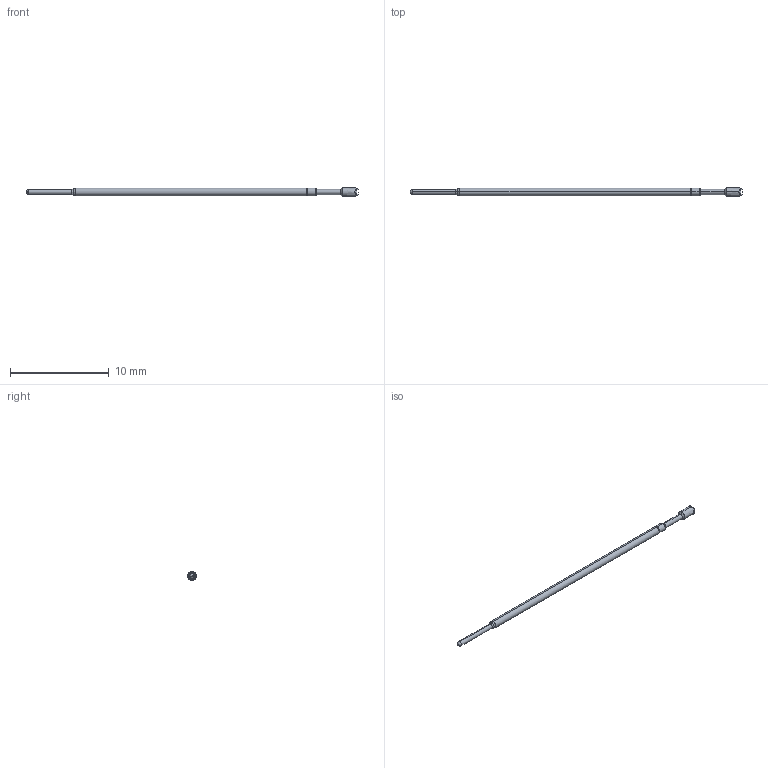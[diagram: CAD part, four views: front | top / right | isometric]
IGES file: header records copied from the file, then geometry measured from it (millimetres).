
Start section: SolidWorks IGES file using analytic representation for surfaces
Global section: file name: C:\Documents and Settings\mrumschlag\Desktop\changes\new\test\H RECD.IGS; native system: SolidWorks 2011; preprocessor: SolidWorks 2011; author: mrumschlag; date: 110630.142724; units: inch
Bounding box: 33.69 x 0.89 x 0.89 mm (x, y, z)
Surface area: 76.6 mm2 (no closed solid volume)
Topology: 0 solids, 0 shells, 55 faces, 266 edges, 264 vertices
Faces by surface type: bspline 37, revolution 18
